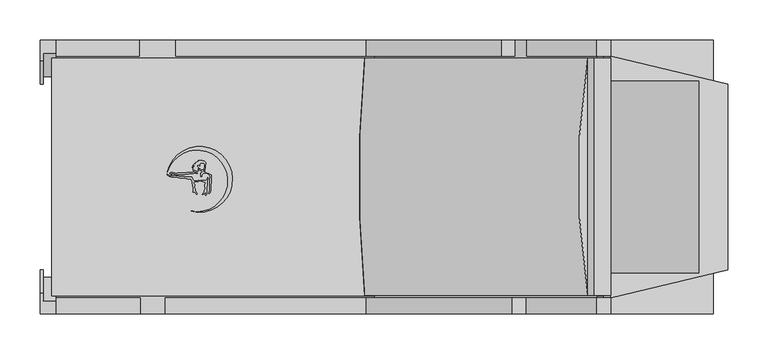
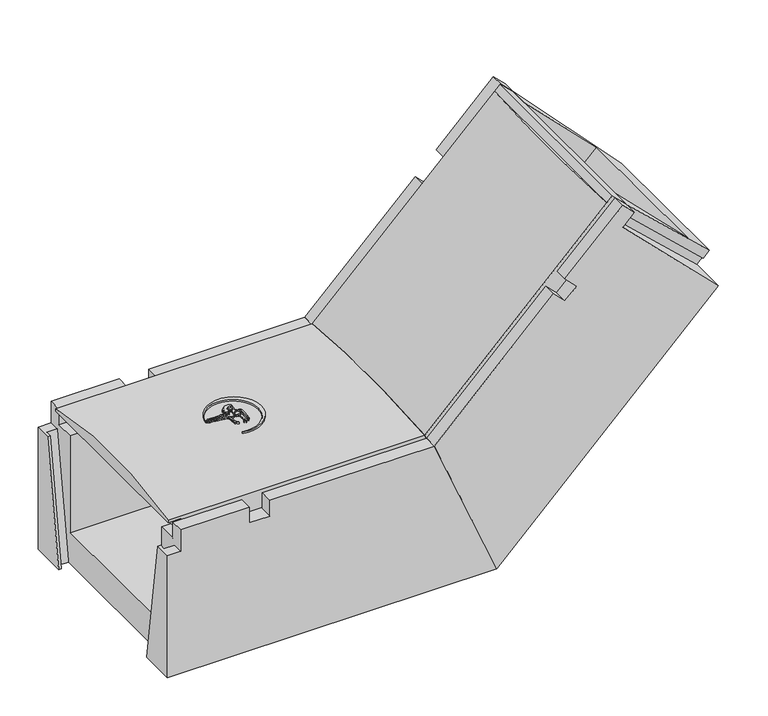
"""IFC4 building model written with IfcOpenShell, lengths in millimetres: cable carrier fitting geometry, Evotray type 2 vertical bend up : Evotray type 2 vertical bend up."""

import ifcopenshell
import ifcopenshell.guid

model = None  # the IFC model being written
_history = None  # IfcOwnerHistory: only IFC2X3 demands one
_inside = {}  # id of a spatial element -> (the spatial element, [elements in it])
_under = {}  # id of a project, library or spatial element -> (it, [spatial elements below it])
_declared = {}  # id of a project -> (the project, [libraries it declares])
_typed = {}  # id of a type object -> (the type object, [elements of that type])
_made_of = {}  # id of a material, layer set ... -> (it, [elements and type objects made of it])


def new_model(schema):
    """Start an empty IFC model of exactly this schema.

    Asked for "IFC4X3", IfcOpenShell would pick the latest addendum, in which some entities
    have other attributes; the version numbers below select the first issue.
    IFC2X3 requires an IfcOwnerHistory on every rooted entity: one is made here for all.
    """
    global model, _history
    if schema == "IFC4X3":
        model = ifcopenshell.file(schema_version=(4, 3, 0, 0))
    else:
        model = ifcopenshell.file(schema=schema)
    _inside.clear()
    _under.clear()
    _declared.clear()
    _typed.clear()
    _made_of.clear()
    _history = None
    if model.schema == "IFC2X3":
        org = make("IfcOrganization", Name="unknown")
        user = make(
            "IfcPersonAndOrganization",
            ThePerson=make("IfcPerson", FamilyName="unknown"),
            TheOrganization=org,
        )
        app = make(
            "IfcApplication",
            ApplicationDeveloper=org,
            Version="unknown",
            ApplicationFullName="unknown",
            ApplicationIdentifier="unknown",
        )
        _history = make(
            "IfcOwnerHistory",
            OwningUser=user,
            OwningApplication=app,
            ChangeAction="ADDED",
            CreationDate=0,
        )
    return model


def make(cls, **values):
    """One entity of the class cls with the attributes given. An attribute that is None is left unset."""
    return model.create_entity(
        cls, **{name: value for name, value in values.items() if value is not None}
    )


def rooted(cls, **values):
    """An entity with a GlobalId (a new one), such as an element, a storey or a relation."""
    return make(cls, GlobalId=ifcopenshell.guid.new(), OwnerHistory=_history, **values)


def si_unit(unit_type, name, prefix=None):
    """IfcSIUnit, for example si_unit("LENGTHUNIT", "METRE", prefix="MILLI")."""
    return make("IfcSIUnit", UnitType=unit_type, Prefix=prefix, Name=name)


def assignment(units):
    """IfcUnitAssignment: the units of a project."""
    return None if units is None else make("IfcUnitAssignment", Units=units)


def point(xyz):
    """IfcCartesianPoint."""
    return None if xyz is None else make("IfcCartesianPoint", Coordinates=xyz)


def direction(xyz):
    """IfcDirection."""
    return None if xyz is None else make("IfcDirection", DirectionRatios=xyz)


def frame(location, z_axis=None, x_axis=None):
    """IfcAxis2Placement3D, a coordinate frame: its origin and axes. An axis left out is left unset."""
    return make(
        "IfcAxis2Placement3D",
        Location=point(location),
        Axis=direction(z_axis),
        RefDirection=direction(x_axis),
    )


def frame_2d(location, x_axis=None):
    """IfcAxis2Placement2D, a coordinate frame in the plane: its origin and x axis."""
    return make(
        "IfcAxis2Placement2D", Location=point(location), RefDirection=direction(x_axis)
    )


def origin():
    """The frame at (0, 0, 0) with its axes left unset."""
    return frame((0.0, 0.0, 0.0))


def place(relative_to, where):
    """IfcLocalPlacement: puts the frame where relative to a parent placement (None: the world)."""
    return make(
        "IfcLocalPlacement", PlacementRelTo=relative_to, RelativePlacement=where
    )


def context(
    kind, dimensions, precision=None, world=None, true_north=None, identifier=None
):
    """IfcGeometricRepresentationContext, for example the 3D "Model" context."""
    return make(
        "IfcGeometricRepresentationContext",
        ContextIdentifier=identifier,
        ContextType=kind,
        CoordinateSpaceDimension=dimensions,
        Precision=precision,
        WorldCoordinateSystem=world,
        TrueNorth=true_north,
    )


def project(units=None, contexts=None):
    """IfcProject with its units and contexts."""
    return rooted(
        "IfcProject",
        Name="project",
        RepresentationContexts=contexts,
        UnitsInContext=assignment(units),
    )


def spatial(cls, under=None, at=None, **own):
    """A site, building, storey or space (cls), placed at a placement, below another one or the project."""
    s = rooted(cls, ObjectPlacement=at, **own)
    if under is not None:
        _under.setdefault(under.id(), (under, []))[1].append(s)
    return s


def polyline(points):
    """IfcPolyline through the points."""
    return make("IfcPolyline", Points=[point(p) for p in points])


def circle_curve(where, radius):
    """IfcCircle in the frame where."""
    return make("IfcCircle", Position=where, Radius=radius)


def ellipse_curve(where, semi_axis1, semi_axis2):
    """IfcEllipse in the frame where."""
    return make(
        "IfcEllipse", Position=where, SemiAxis1=semi_axis1, SemiAxis2=semi_axis2
    )


def trimmed(basis, trim1, trim2, sense, master):
    """IfcTrimmedCurve: the piece of a basis curve between two trims."""
    return make(
        "IfcTrimmedCurve",
        BasisCurve=basis,
        Trim1=trim1,
        Trim2=trim2,
        SenseAgreement=sense,
        MasterRepresentation=master,
    )


def segment(curve, same_sense, transition):
    """IfcCompositeCurveSegment."""
    return make(
        "IfcCompositeCurveSegment",
        Transition=transition,
        SameSense=same_sense,
        ParentCurve=curve,
    )


def composite_curve(segments, self_intersect=None):
    """IfcCompositeCurve: segments joined end to end."""
    return make("IfcCompositeCurve", Segments=segments, SelfIntersect=self_intersect)


def outline(outer, holes=None, kind="AREA"):
    """IfcArbitraryClosedProfileDef: a profile drawn as a closed curve; with holes, ...WithVoids."""
    if holes is None:
        return make("IfcArbitraryClosedProfileDef", ProfileType=kind, OuterCurve=outer)
    return make(
        "IfcArbitraryProfileDefWithVoids",
        ProfileType=kind,
        OuterCurve=outer,
        InnerCurves=holes,
    )


def extrude(swept, where, along, depth):
    """IfcExtrudedAreaSolid: the profile swept, set in the frame where, extruded along a direction by depth."""
    return make(
        "IfcExtrudedAreaSolid",
        SweptArea=swept,
        Position=where,
        ExtrudedDirection=direction(along),
        Depth=depth,
    )


def faces_of(points, faces, orient=None, outer=None):
    """IfcFace entities. A face is a list of loops; a loop is a list of indices into points, from 0.

    orient and outer hold one flag for each loop. By default every Orientation is true, the
    first loop of a face is its IfcFaceOuterBound and the others are IfcFaceBound.
    """
    made = []
    for i, loops in enumerate(faces):
        bounds = []
        for j, loop in enumerate(loops):
            is_outer = j == 0 if outer is None else outer[i][j]
            bounds.append(
                make(
                    "IfcFaceOuterBound" if is_outer else "IfcFaceBound",
                    Bound=make("IfcPolyLoop", Polygon=[points[k] for k in loop]),
                    Orientation=True if orient is None else orient[i][j],
                )
            )
        made.append(make("IfcFace", Bounds=bounds))
    return made


def faceted_brep(points, faces, orient=None, outer=None, voids=None):
    """IfcFacetedBrep: a solid bounded by flat faces; with voids (closed shells), ...WithVoids."""
    shared = [point(p) for p in points]
    hull = make("IfcClosedShell", CfsFaces=faces_of(shared, faces, orient, outer))
    if voids is None:
        return make("IfcFacetedBrep", Outer=hull)
    return make(
        "IfcFacetedBrepWithVoids",
        Outer=hull,
        Voids=[
            make(cls, CfsFaces=faces_of(shared, fs, o, b)) for cls, fs, o, b in voids
        ],
    )


def shape(context_of_items, identifier, shape_type, items):
    """IfcShapeRepresentation: the items that make up one representation, for example the "Body"."""
    return make(
        "IfcShapeRepresentation",
        ContextOfItems=context_of_items,
        RepresentationIdentifier=identifier,
        RepresentationType=shape_type,
        Items=items,
    )


def source(mapping_origin, context_of_items, identifier, shape_type, items):
    """IfcRepresentationMap: a shape defined once, which mapped items show again and again."""
    return make(
        "IfcRepresentationMap",
        MappingOrigin=mapping_origin,
        MappedRepresentation=shape(context_of_items, identifier, shape_type, items),
    )


def transform(
    local_origin,
    x_axis=None,
    y_axis=None,
    z_axis=None,
    scale=None,
    scale2=None,
    scale3=None,
    uniform=True,
):
    """IfcCartesianTransformationOperator3D, or its non-uniform kind. x_axis, y_axis, z_axis: its Axis1, 2, 3."""
    if uniform:
        return make(
            "IfcCartesianTransformationOperator3D",
            Axis1=direction(x_axis),
            Axis2=direction(y_axis),
            LocalOrigin=point(local_origin),
            Scale=scale,
            Axis3=direction(z_axis),
        )
    return make(
        "IfcCartesianTransformationOperator3DnonUniform",
        Axis1=direction(x_axis),
        Axis2=direction(y_axis),
        LocalOrigin=point(local_origin),
        Scale=scale,
        Axis3=direction(z_axis),
        Scale2=scale2,
        Scale3=scale3,
    )


def mapped(mapping_source, mapping_target):
    """IfcMappedItem: shows the shape of a source again, moved by a transform."""
    return make(
        "IfcMappedItem", MappingSource=mapping_source, MappingTarget=mapping_target
    )


def made_of(thing, what):
    """Note that an element or type object is made of a material, layer set ...; save() writes the relation."""
    if what is not None:
        _made_of.setdefault(what.id(), (what, []))[1].append(thing)
    return thing


def element(
    cls,
    number,
    at=None,
    inside=None,
    cuts=None,
    type_object=None,
    material=None,
    context=None,
    identifier="Body",
    shape_type=None,
    held_by="IfcProductDefinitionShape",
    body=None,
    shapes=None,
    **own,
):
    """One element of the class cls, such as IfcWall. Its Tag is "e" and its number.

    at: its placement. inside: the storey or other place that contains it. cuts: it is an
    opening in that element (IfcRelVoidsElement). A single representation is given by context,
    identifier, shape_type and body (its items); several are given by shapes. held_by: the class
    of the entity that holds the representations. save() writes the other relations.
    """
    e = rooted(cls, Tag="e%d" % number, ObjectPlacement=at, **own)
    if body is not None:
        shapes = [shape(context, identifier, shape_type, body)]
    if shapes is not None:
        e.Representation = make(held_by, Representations=shapes)
    if inside is not None:
        _inside.setdefault(inside.id(), (inside, []))[1].append(e)
    if cuts is not None:
        rooted(
            "IfcRelVoidsElement", RelatingBuildingElement=cuts, RelatedOpeningElement=e
        )
    if type_object is not None:
        _typed.setdefault(type_object.id(), (type_object, []))[1].append(e)
    return made_of(e, material)


def aggregate(whole, parts):
    """IfcRelAggregates: a whole, such as a stair, and the parts it consists of."""
    return rooted("IfcRelAggregates", RelatingObject=whole, RelatedObjects=parts)


def save(model, path):
    """Write the relations noted so far, then the file.

    IfcRelAggregates (storeys below a building ...), IfcRelContainedInSpatialStructure (elements
    in a storey), IfcRelDefinesByType, IfcRelAssociatesMaterial and IfcRelDeclares: one each for
    every whole, place, type object, material and project.
    """
    for whole, parts in _under.values():
        aggregate(whole, parts)
    for where, things in _inside.values():
        rooted(
            "IfcRelContainedInSpatialStructure",
            RelatedElements=things,
            RelatingStructure=where,
        )
    for kind, things in _typed.values():
        rooted("IfcRelDefinesByType", RelatedObjects=things, RelatingType=kind)
    for what, things in _made_of.values():
        rooted("IfcRelAssociatesMaterial", RelatedObjects=things, RelatingMaterial=what)
    for by, libraries in _declared.values():
        rooted("IfcRelDeclares", RelatingContext=by, RelatedDefinitions=libraries)
    model.write(path)


def plane_surface(at):
    """IfcPlane: the flat surface through the origin of the frame at, square to its z axis."""
    return make("IfcPlane", Position=at)


def cylinder_surface(at, radius):
    """IfcCylindricalSurface: all points at the distance radius from the z axis of the frame at."""
    return make("IfcCylindricalSurface", Position=at, Radius=radius)


def advanced_brep(points, edges, surfaces, faces):
    """IfcAdvancedBrep: a solid bounded by faces that lie on surfaces and meet in shared edges.

    An edge is (start, end): straight between two places in points (the first is 0);
    or (start, end, curve); or (start, end, curve, False) where it runs against its curve.
    A face is (place in surfaces, loops), or (place, loops, False) where it looks against
    its surface's normal. A loop lists edges by number (the first is 1), with a minus sign
    where the edge is run from its end to its start. The first loop is the outer one.
    """
    corners = [point(p) for p in points]
    vertices = [make("IfcVertexPoint", VertexGeometry=c) for c in corners]
    made = []
    for start, end, *more in edges:
        made.append(
            make(
                "IfcEdgeCurve",
                EdgeStart=vertices[start],
                EdgeEnd=vertices[end],
                EdgeGeometry=more[0] if more else make("IfcPolyline", Points=[corners[start], corners[end]]),
                SameSense=more[1] if len(more) > 1 else True,
            )
        )
    hull = []
    for where, loops, *sense in faces:
        bounds = []
        for j, loop in enumerate(loops):
            ring = [make("IfcOrientedEdge", EdgeElement=made[abs(k) - 1], Orientation=k > 0) for k in loop]
            bounds.append(
                make(
                    "IfcFaceOuterBound" if j == 0 else "IfcFaceBound",
                    Bound=make("IfcEdgeLoop", EdgeList=ring),
                    Orientation=True,
                )
            )
        hull.append(make("IfcAdvancedFace", Bounds=bounds, FaceSurface=surfaces[where], SameSense=sense[0] if sense else True))
    return make("IfcAdvancedBrep", Outer=make("IfcClosedShell", CfsFaces=hull))


def cable_carrier_fitting_b5f44305(model_context):
    return source(origin(), model_context, "Body", "SolidModel", [
        extrude(outline(composite_curve([segment(polyline([(-180.1987673, 5.907559), (-178.7730763, 5.0844359), (-179.4820077, 4.6751342), (-182.0469375, 4.6751342), (-184.5064308, 2.2156409), (-184.5064308, 0.6319729), (-185.5639447, 0.3486129), (-185.8953119, 1.5852919), (-185.5730905, 2.7878385), (-185.5730905, 5.0146536), (-184.1065498, 6.4811943), (-184.5064308, 7.1738084), (-185.5730905, 7.7896447), (-186.4313624, 8.2851682), (-187.4244859, 9.2782918), (-187.4244859, 10.5283487), (-186.6366917, 10.0735155), (-185.5730905, 9.0099142), (-184.5064308, 8.394078), (-182.1936661, 8.394078), (-181.5617675, 9.0259766), (-181.5617675, 10.6343813), (-181.1559104, 11.3373462), (-180.9163405, 12.2314336), (-180.9163405, 16.3268685), (-181.5617675, 16.9722955), (-185.5730905, 17.3232408), (-186.3212546, 16.8912881), (-186.7531031, 16.1433045), (-186.9754965, 15.313321), (-187.2482129, 13.7666695), (-187.8042347, 14.3226912), (-188.3698905, 14.8883471), (-189.3304254, 14.8883471), (-189.8048648, 14.0665939), (-189.8048648, 13.2416885), (-189.4028177, 12.5453225), (-188.675123, 11.8176278), (-189.0717623, 10.3373496), (-189.4092623, 9.0777826), (-189.1064549, 7.3604762), (-189.907248, 7.2192748), (-191.6376932, 7.6829462), (-192.8844025, 8.2642963), (-193.6376597, 8.6155459), (-195.2371082, 8.33352), (-194.7695498, 9.1433549), (-193.1127288, 9.7463885)]), True, "CONTINUOUS"), segment(trimmed(circle_curve(frame_2d((-193.6788564, 9.4744491)), 0.6280537), [point((-193.1127288, 9.7463885))], [point((-193.8344386, 10.0829273))], True, "CARTESIAN"), True, "CONTINUOUS"), segment(polyline([(-193.8344386, 10.0829273), (-195.7814537, 10.0829273), (-195.2232755, 10.6411054), (-194.3724958, 10.9507639), (-193.5540563, 11.2486515)]), True, "CONTINUOUS"), segment(trimmed(circle_curve(frame_2d((-194.2923812, 11.2486515)), 0.7383249), [point((-193.5540563, 11.2486515))], [point((-194.2923812, 11.9869764))], True, "CARTESIAN"), True, "CONTINUOUS"), segment(polyline([(-194.2923812, 11.9869764), (-196.0001288, 11.9869764), (-196.3916504, 12.6651117), (-194.5730583, 12.9857785), (-193.2767203, 13.457607), (-193.897473, 14.0783597), (-195.8606925, 14.0783597), (-195.30811, 14.6309421), (-194.2782773, 15.2255163), (-193.603553, 15.9002407), (-192.8807357, 16.3175594), (-191.9057237, 16.8804829)]), True, "CONTINUOUS"), segment(trimmed(circle_curve(frame_2d((-192.1167091, 17.2459203)), 0.4219708), [point((-191.9057237, 16.8804829))], [point((-192.3276945, 17.6113577))], True, "CARTESIAN"), True, "CONTINUOUS"), segment(polyline([(-192.3276945, 17.6113577), (-191.7102978, 18.2287544), (-190.4076278, 18.7028875), (-189.4125713, 19.2773836), (-188.2810347, 19.4769041), (-188.6348604, 20.4490324), (-183.6348604, 20.4490324), (-182.6206866, 19.9761154), (-181.4988316, 19.6755153), (-180.4843855, 19.0898245), (-179.3757091, 17.9811481), (-179.3757091, 15.4151328), (-179.8646262, 14.5683035), (-179.8646262, 11.8362675), (-180.3536612, 10.7875287), (-180.760463, 10.0829273), (-180.760463, 8.2341629), (-181.5617675, 7.7715296), (-182.3950459, 7.6246001)]), True, "CONTINUOUS"), segment(trimmed(circle_curve(frame_2d((-181.3420944, 7.3424626)), 1.0900956), [point((-182.3950459, 7.6246001))], [point((-181.6242319, 6.2895111))], True, "CARTESIAN"), True, "CONTINUOUS"), segment(polyline([(-181.6242319, 6.2895111), (-180.1987673, 5.907559)]), True, "CONTINUOUS")], self_intersect=False)), frame((0.0, 0.0, 229.0645802), z_axis=(0.0, 0.0, 1.0), x_axis=(1.0, 0.0, 0.0)), (0.0, 0.0, 1.0), 22.5),
        extrude(outline(polyline([(-175.6420581, 3.0525563), (-177.5647021, 4.1625953), (-176.375462, 4.4812513), (-175.0006066, 3.9808448), (-172.8744575, 2.753312), (-172.462808, 1.2170154), (-172.462808, -1.5561738), (-172.8811889, -3.9289297), (-173.2073261, -13.2682758), (-173.2073261, -16.1231727), (-173.766974, -19.297094), (-174.9259981, -20.4561181), (-175.8234867, -20.4561181), (-175.1486125, -18.6019165), (-174.8396569, -16.8497423), (-174.3251997, -13.9321102), (-174.3251997, -2.6926455), (-173.883565, -0.1880111), (-174.4260419, 1.8365401), (-175.6420581, 3.0525563)])), frame((0.0, 0.0, 229.0645802), z_axis=(0.0, 0.0, 1.0), x_axis=(1.0, 0.0, 0.0)), (0.0, 0.0, 1.0), 22.5),
        extrude(outline(composite_curve([segment(polyline([(-183.070307, -4.5554644), (-181.0881056, -4.5554644), (-179.6198413, -4.2965698), (-178.3145593, -2.9912878), (-177.1344504, -0.4605362), (-176.6534984, -1.7819409), (-177.2762062, -3.117342), (-177.9468137, -4.5554644), (-177.9468137, -10.5136603), (-178.3751928, -12.943119), (-178.3751928, -21.4242609), (-179.8238515, -22.8729196), (-180.3965887, -22.3001824), (-179.7178687, -20.5578122), (-179.4597233, -19.0937972)]), True, "CONTINUOUS"), segment(trimmed(circle_curve(frame_2d((-179.8743713, -19.0937972)), 0.414648), [point((-179.4597233, -19.0937972))], [point((-180.2890194, -19.0937972))], True, "CARTESIAN"), True, "CONTINUOUS"), segment(polyline([(-180.2890194, -19.0937972), (-181.0547081, -19.8594859), (-182.3215546, -21.3692548), (-182.9770637, -22.0247639), (-183.7693849, -21.6552984), (-181.605165, -18.4467105), (-181.2992553, -16.7118106), (-180.4571975, -14.9060116), (-180.19999, -13.4473154), (-180.9884987, -12.0815782), (-180.9884987, -9.315031), (-179.6653502, -7.4454743)]), True, "CONTINUOUS"), segment(trimmed(circle_curve(frame_2d((-180.0024552, -7.2068937)), 0.4129897), [point((-179.6653502, -7.4454743))], [point((-180.2410358, -6.8697887))], True, "CARTESIAN"), True, "CONTINUOUS"), segment(polyline([(-180.2410358, -6.8697887), (-182.2448508, -6.516462), (-183.6887473, -5.843162), (-185.508748, -4.9944818), (-185.508748, -4.1255015), (-183.070307, -4.5554644)]), True, "CONTINUOUS")], self_intersect=False)), frame((0.0, 0.0, 229.0645802), z_axis=(0.0, 0.0, 1.0), x_axis=(1.0, 0.0, 0.0)), (0.0, 0.0, 1.0), 22.5),
        extrude(outline(composite_curve([segment(polyline([(-225.4819029, 2.2537302), (-223.7462291, 1.4443722), (-219.5597552, 1.4443722), (-218.4890341, 1.731271), (-217.1624965, 1.731271), (-215.4413877, 1.4443722), (-213.4350656, 0.9067798), (-212.2818775, 0.597784), (-206.5899708, 0.597784), (-203.9734749, 0.1616293), (-202.6459123, -0.19409), (-197.03167, -0.19409)]), True, "CONTINUOUS"), segment(trimmed(circle_curve(frame_2d((-188.1781038, 2.7115165)), 9.3181642), [point((-197.03167, -0.19409))], [point((-193.6774022, -4.8108435))], True, "CARTESIAN"), True, "CONTINUOUS"), segment(polyline([(-193.6774022, -4.8108435), (-190.6256174, -4.8108435), (-188.5910388, -4.632841), (-187.4520349, -4.1017147), (-187.7095548, -5.0627921), (-188.6536491, -5.6078652), (-189.612336, -5.9567987), (-192.847041, -5.8438403), (-194.0357356, -6.2764898), (-194.44473, -7.153581), (-194.3696494, -8.0117562), (-193.8907652, -8.8412079), (-193.1701597, -9.5618134), (-193.1701597, -11.3180259), (-193.53546, -12.3216801), (-193.3911934, -13.970655), (-192.8861011, -15.8556852), (-192.737982, -17.5486944), (-190.3666469, -20.2766033), (-190.5753239, -21.4600691), (-193.1701597, -18.8652332), (-194.1329913, -19.1232231), (-195.5361675, -18.8758053), (-195.2606072, -18.1187094), (-195.2606072, -15.8446539), (-195.0850033, -14.8487551), (-195.2606072, -12.8415943), (-195.6362696, -11.8094702), (-195.6362696, -9.9842873), (-196.0826053, -9.0271173), (-196.0826053, -6.6493678), (-196.3310455, -5.7221762), (-196.7830159, -4.9393406), (-197.2317276, -4.1621491), (-197.84617, -3.5477067), (-198.2800213, -2.6173096), (-201.8809595, -2.4915621), (-204.2251115, -2.1008055), (-206.2577048, -1.5561738), (-209.5993244, -1.2049554), (-211.6789374, -1.2049554), (-213.021172, -0.8453047), (-214.5447671, -0.4370587), (-215.8880204, 0.1893106), (-216.8824091, 0.1893106), (-219.5338495, 0.1893106), (-220.6460936, -0.1087143), (-222.5093755, 0.0871245), (-223.9984504, 0.3353447), (-225.6717579, 1.1156208), (-226.6476843, 2.0915471), (-227.2867674, 2.7306302), (-227.2867674, 3.5175099), (-225.4819029, 2.2537302)]), True, "CONTINUOUS")], self_intersect=False)), frame((0.0, 0.0, 229.0645802), z_axis=(0.0, 0.0, 1.0), x_axis=(1.0, 0.0, 0.0)), (0.0, 0.0, 1.0), 22.5),
        extrude(outline(composite_curve([segment(polyline([(-222.9796703, 3.7977023), (-221.956356, 3.2068915), (-223.6840165, 3.7265624), (-224.014163, 4.6441261), (-223.1758386, 5.4824506), (-220.30302, 5.4824506), (-219.318583, 5.0847122), (-218.2280942, 4.6441261), (-217.4299007, 4.1832889), (-216.1696706, 4.1832889), (-215.3486455, 4.4787), (-214.4633932, 4.9898007), (-208.0496883, 4.9898007), (-207.1941137, 4.6441261), (-206.1237116, 4.6441261), (-205.1629915, 4.9898007), (-203.9838348, 4.9898007), (-203.2654957, 5.4045339), (-197.8528405, 5.4045339), (-197.0925598, 5.6780888), (-195.8504018, 5.6780888), (-195.2746333, 6.2538574), (-193.3170698, 6.2538574), (-192.0290688, 5.7334711), (-191.0171524, 5.1492409), (-190.2127113, 4.8242256)]), True, "CONTINUOUS"), segment(trimmed(circle_curve(frame_2d((-190.6200436, 4.6596527)), 0.4393221), [point((-190.2127113, 4.8242256))], [point((-190.7846166, 4.2523203))], False, "CARTESIAN"), True, "CONTINUOUS"), segment(polyline([(-190.7846166, 4.2523203), (-191.8003453, 4.6627013), (-193.112003, 4.6627013), (-194.382433, 4.8867124), (-195.1944574, 4.5945398), (-196.3374314, 4.1832889), (-199.6816293, 4.1832889), (-200.4727027, 3.7265624), (-204.0400229, 3.7265624), (-204.9228853, 3.2168416), (-214.9228853, 3.2168416), (-217.5335493, 2.9884381), (-221.222077, 4.4787), (-223.3728446, 4.4787), (-222.9796703, 3.7977023)]), True, "CONTINUOUS")], self_intersect=False)), frame((0.0, 0.0, 229.0645802), z_axis=(0.0, 0.0, 1.0), x_axis=(1.0, 0.0, 0.0)), (0.0, 0.0, 1.0), 22.5),
        extrude(outline(composite_curve([segment(trimmed(circle_curve(frame_2d((-190.3994103, -4.8721323)), 38.3616107), [point((-197.8072471, -42.511701))], [point((-227.1109456, 6.2578432))], True, "CARTESIAN"), True, "CONTINUOUS"), segment(trimmed(circle_curve(frame_2d((-187.2700096, -2.9917986)), 40.900563), [point((-227.1109456, 6.2578432))], [point((-197.8072471, -42.511701))], False, "CARTESIAN"), True, "CONTINUOUS")], self_intersect=False)), frame((0.0, 0.0, 229.0645802), z_axis=(0.0, 0.0, 1.0), x_axis=(1.0, 0.0, 0.0)), (0.0, 0.0, 1.0), 22.5),
        advanced_brep(
        [(30.0862197, -147.5, 205.0), (323.5965005, -147.5, 498.5102807), (303.1074144, -147.5, 518.9993667), (294.6221331, -147.5, 510.5140854), (18.0740264, -147.5, 234.0), (323.5965005, 147.5, 498.5102807), (30.0862197, 147.5, 205.0), (18.0740264, 147.5, 234.0), (294.6051224, 147.5, 510.531096), (303.1074144, 147.5, 518.9993667)],
        [
            (0, 1),
            (1, 2),
            (2, 3),
            (3, 4),
            (4, 0),
            (5, 6),
            (6, 7),
            (7, 8),
            (8, 9),
            (9, 5),
            (1, 5),
            (9, 2),
            (6, 0),
            (4, 7, ellipse_curve(frame((281.1649356, 0.0, -401.157641), z_axis=(-0.9238795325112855, 0.0, -0.38268343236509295), x_axis=(-0.3826834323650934, 0.0, 0.9238795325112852)), 705.7840235, 652.0594136)),
            (8, 3),
            (8, 3, circle_curve(frame((743.7293975, 0.0, 61.4068209), z_axis=(0.7071067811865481, 0.0, 0.707106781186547), x_axis=(0.0, -1.0, 0.0)), 652.0594136)),
        ],
        [
            plane_surface(frame((323.5965005, -147.5, 498.5102807), z_axis=(0.0, -1.0, 0.0), x_axis=(-0.7071067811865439, 0.0, 0.7071067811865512))),
            plane_surface(frame((323.5965005, 147.5, 498.5102807), z_axis=(0.0, 1.0, 0.0), x_axis=(0.7071067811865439, 0.0, -0.7071067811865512))),
            plane_surface(frame((323.5965005, -147.5, 498.5102807), z_axis=(0.7071067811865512, 0.0, 0.7071067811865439), x_axis=(0.0, 1.0, 0.0))),
            plane_surface(frame((11.0323958, -147.5, 251.0), z_axis=(-0.9238795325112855, 0.0, -0.38268343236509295), x_axis=(0.0, 1.0, 0.0))),
            plane_surface(frame((30.0862197, -147.5, 205.0), z_axis=(0.7071067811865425, 0.0, -0.7071067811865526), x_axis=(0.0, 1.0, 0.0))),
            plane_surface(frame((303.1074144, -147.5, 518.9993667), z_axis=(-0.7071067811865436, 0.0, 0.7071067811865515), x_axis=(-0.7071067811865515, 0.0, -0.7071067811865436))),
            plane_surface(frame((294.6221331, -147.5, 510.5140854), z_axis=(0.7071067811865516, 0.0, 0.7071067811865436), x_axis=(-0.7071067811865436, 0.0, 0.7071067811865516))),
            cylinder_surface(frame((465.4409422, 0.0, -216.8816344), z_axis=(0.7071067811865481, 0.0, 0.707106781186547), x_axis=(0.0, -1.0, 0.0)), 652.0594136),
        ],
        [
            (0, [[1, 2, 3, 4, 5]]),
            (1, [[6, 7, 8, 9, 10]]),
            (2, [[11, -10, 12, -2]]),
            (3, [[13, -5, 14, -7]]),
            (4, [[-1, -13, -6, -11]]),
            (5, [[15, -3, -12, -9]]),
            (6, [[-15, 16]]),
            (7, [[-4, -16, -8, -14]]),
        ],
    ),
        advanced_brep(
        [(-351.0, -147.5, 205.0), (30.0862197, -147.5, 205.0), (18.0740264, -147.5, 234.0), (-371.0, -147.5, 234.0), (-371.0, -147.5, 230.0), (-351.0, -147.5, 230.0), (30.0862197, 147.5, 205.0), (-351.0, 147.5, 205.0), (-351.0, 147.5, 230.0), (-371.0, 147.5, 230.0), (-371.0, 147.5, 234.0), (18.0740264, 147.5, 234.0)],
        [
            (0, 1),
            (1, 2),
            (2, 3),
            (3, 4),
            (4, 5),
            (5, 0),
            (6, 7),
            (7, 8),
            (8, 9),
            (9, 10),
            (10, 11),
            (11, 6),
            (9, 4),
            (3, 10, circle_curve(frame((-371.0, 0.0, -401.157641), z_axis=(-1.0, 0.0, 0.0), x_axis=(0.0, -1.0, 0.0)), 652.0594136)),
            (6, 1),
            (0, 7),
            (11, 2, ellipse_curve(frame((281.1649356, 0.0, -401.157641), z_axis=(0.9238795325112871, 0.0, 0.38268343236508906), x_axis=(0.38268343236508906, 0.0, -0.923879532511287)), 705.7840235, 652.0594136)),
            (8, 5),
        ],
        [
            plane_surface(frame((-371.0, -147.5, 205.0), z_axis=(0.0, -1.0, 0.0), x_axis=(0.0, 0.0, -1.0))),
            plane_surface(frame((-371.0, 147.5, 205.0), z_axis=(0.0, 1.0, 0.0), x_axis=(0.0, 0.0, 1.0))),
            plane_surface(frame((-371.0, -147.5, 251.0), z_axis=(-1.0, 0.0, 0.0), x_axis=(0.0, 1.0, 0.0))),
            plane_surface(frame((-371.0, -147.5, 205.0), z_axis=(0.0, 0.0, -1.0), x_axis=(0.0, 1.0, 0.0))),
            plane_surface(frame((30.0862197, -147.5, 205.0), z_axis=(0.9238795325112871, 0.0, 0.38268343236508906), x_axis=(0.0, 1.0, 0.0))),
            plane_surface(frame((-371.0, 147.5, 230.0), z_axis=(0.0, 0.0, -1.0), x_axis=(-1.0, 0.0, 0.0))),
            plane_surface(frame((-351.0, -147.5, 230.0), z_axis=(-1.0, 0.0, 0.0), x_axis=(0.0, 0.0, -1.0))),
            cylinder_surface(frame((-371.0, 0.0, -401.157641), z_axis=(1.0, 0.0, 0.0), x_axis=(0.0, -1.0, 0.0)), 652.0594136),
        ],
        [
            (0, [[1, 2, 3, 4, 5, 6]]),
            (1, [[7, 8, 9, 10, 11, 12]]),
            (2, [[13, -4, 14, -10]]),
            (3, [[15, -1, 16, -7]]),
            (4, [[-15, -12, 17, -2]]),
            (5, [[18, -5, -13, -9]]),
            (6, [[-18, -8, -16, -6]]),
            (7, [[-3, -17, -11, -14]]),
        ],
    ),
        faceted_brep([(19.7308807, -170.0, 230.0), (115.0, -170.0, 0.0), (450.8757211, -170.0, 335.8757211), (305.9188309, -170.0, 480.8326112), (323.5965005, -170.0, 498.5102807), (305.9188309, -170.0, 516.1879503), (218.2375901, -170.0, 428.5067094), (235.9152596, -170.0, 410.8290399), (218.2375901, -170.0, 393.1513703), (200.5599205, -170.0, 410.8290399), (115.0, 170.0, 0.0), (19.7308807, 170.0, 230.0), (187.1248917, 170.0, 397.394011), (204.8025612, 170.0, 379.7163415), (236.6223664, 170.0, 411.5361467), (218.9446968, 170.0, 429.2138162), (305.9188309, 170.0, 516.1879503), (323.5965005, 170.0, 498.5102807), (305.9188309, 170.0, 480.8326112), (450.8757211, 170.0, 335.8757211), (323.5965005, -120.0, 498.5102807), (323.5965005, -150.0, 498.5102807), (468.5533906, -115.4, 353.5533906), (468.5533906, 115.4, 353.5533906), (323.5965005, 150.0, 498.5102807), (323.5965005, 120.0, 498.5102807), (433.1980515, 120.0, 388.9087297), (433.1980515, -120.0, 388.9087297), (305.9188309, -150.0, 516.1879503), (305.9188309, 150.0, 516.1879503), (218.2375901, -150.0, 428.5067094), (218.9446968, 150.0, 429.2138162), (19.7308807, -150.0, 230.0), (200.5599205, -150.0, 410.8290399), (19.7308807, 150.0, 230.0), (187.1248917, 150.0, 397.394011), (30.0862197, -150.0, 205.0), (30.0862197, -120.0, 205.0), (94.2893219, -120.0, 50.0), (94.2893219, 120.0, 50.0), (30.0862197, 120.0, 205.0), (30.0862197, 150.0, 205.0), (450.8757211, 113.0, 335.8757211), (459.3610024, 113.0, 344.3610024), (459.3610024, 115.4, 344.3610024), (459.3610024, -115.4, 344.3610024), (459.3610024, -113.0, 344.3610024), (450.8757211, -113.0, 335.8757211), (314.4041123, -150.0, 489.3178926), (305.9188309, -150.0, 480.8326112), (235.9152596, -150.0, 410.8290399), (218.2375901, -150.0, 393.1513703), (236.6223664, 150.0, 411.5361467), (305.9188309, 150.0, 480.8326112), (314.4041123, 150.0, 489.3178926), (204.8025612, 150.0, 379.7163415), (305.9188309, -147.6, 480.8326112), (314.4041123, -147.6, 489.3178926), (314.4041123, 147.6, 489.3178926), (305.9188309, 147.6, 480.8326112)], [[[0, 1, 2, 3, 4, 5, 6, 7, 8, 9]], [[10, 11, 12, 13, 14, 15, 16, 17, 18, 19]], [[20, 21, 22, 23, 24, 25, 26, 27]], [[28, 5, 4, 21]], [[16, 29, 24, 17]], [[5, 28, 30, 6]], [[29, 16, 15, 31]], [[32, 0, 9, 33]], [[11, 34, 35, 12]], [[1, 0, 32, 36, 37, 38, 39, 40, 41, 34, 11, 10]], [[1, 10, 19, 42, 43, 44, 23, 22, 45, 46, 47, 2]], [[28, 21, 48, 49, 50, 30]], [[36, 32, 33, 51]], [[24, 29, 31, 52, 53, 54]], [[34, 41, 55, 35]], [[37, 36, 51, 8, 7, 50, 49, 56, 57, 48, 21, 20]], [[41, 40, 25, 24, 54, 58, 59, 53, 52, 14, 13, 55]], [[27, 38, 37, 20]], [[39, 26, 25, 40]], [[38, 27, 26, 39]], [[48, 21, 4, 3, 49]], [[21, 48, 45, 22]], [[24, 54, 53, 18, 17]], [[54, 24, 23, 44]], [[46, 57, 56, 47]], [[47, 56, 49, 3, 2]], [[57, 46, 45, 48]], [[42, 59, 58, 43]], [[59, 42, 19, 18, 53]], [[43, 58, 54, 44]], [[55, 13, 12, 35]], [[14, 52, 31, 15]], [[50, 7, 6, 30]], [[8, 51, 33, 9]]]),
        faceted_brep([(-385.0, -170.0, 0.0), (115.0, -170.0, 0.0), (19.7308807, -170.0, 230.0), (-229.6518259, -170.0, 230.0), (-229.6518259, -170.0, 205.0), (-261.0, -170.0, 205.0), (-261.0, -170.0, 230.0), (-365.0130369, -170.0, 230.0), (-365.0130369, -170.0, 196.0), (-385.0, -170.0, 196.0), (19.7308807, 170.0, 230.0), (115.0, 170.0, 0.0), (-385.0, 170.0, 0.0), (-385.0, 170.0, 196.0), (-365.0130369, 170.0, 196.0), (-365.0130369, 170.0, 230.0), (-262.0, 170.0, 230.0), (-262.0, 170.0, 205.0), (-217.0, 170.0, 205.0), (-217.0, 170.0, 230.0), (19.7308807, -150.0, 230.0), (-229.6518259, -150.0, 230.0), (19.7308807, 150.0, 230.0), (-217.0, 150.0, 230.0), (-365.0130369, -150.0, 230.0), (-261.0, -150.0, 230.0), (-365.0130369, 150.0, 230.0), (-262.0, 150.0, 230.0), (-385.0, -115.45, 0.0), (-385.0, -144.8926087, 196.0), (-385.0, 115.45, 0.0), (-385.0, 144.8926087, 196.0), (-381.0, -115.45, 0.0), (-381.0, -124.6, 0.0), (-365.0, -124.6, 0.0), (-365.0, 124.6, 0.0), (-381.0, 124.6, 0.0), (-381.0, 115.45, 0.0), (30.0862197, 150.0, 205.0), (30.0862197, 120.0, 205.0), (94.2893219, 120.0, 50.0), (94.2893219, -120.0, 50.0), (30.0862197, -120.0, 205.0), (30.0862197, -150.0, 205.0), (-381.0, 144.8926087, 196.0), (-381.0, -144.8926087, 196.0), (-365.0, 154.0426087, 196.0), (-381.0, 154.0426087, 196.0), (-381.0, -154.0426087, 196.0), (-365.0, -154.0426087, 196.0), (-365.0, -150.0, 205.0), (-365.0, -147.5, 205.0), (-365.0, -120.0, 205.0), (-365.0, -120.0, 50.0), (-365.0, 120.0, 50.0), (-365.0, 120.0, 205.0), (-365.0, 147.5, 205.0), (-365.0, 150.0, 205.0), (-229.6518259, -150.0, 205.0), (-261.0, -150.0, 205.0), (-217.0, 150.0, 205.0), (-262.0, 150.0, 205.0), (-351.0, 120.0, 205.0), (-351.0, -120.0, 205.0)], [[[0, 1, 2, 3, 4, 5, 6, 7, 8, 9]], [[10, 11, 12, 13, 14, 15, 16, 17, 18, 19]], [[2, 20, 21, 3]], [[22, 10, 19, 23]], [[24, 7, 6, 25]], [[15, 26, 27, 16]], [[28, 0, 9, 29]], [[12, 30, 31, 13]], [[1, 0, 28, 32, 33, 34, 35, 36, 37, 30, 12, 11]], [[2, 1, 11, 10, 22, 38, 39, 40, 41, 42, 43, 20]], [[30, 37, 44, 31]], [[32, 28, 29, 45]], [[36, 35, 46, 47]], [[33, 32, 45, 48]], [[37, 36, 47, 44]], [[34, 33, 48, 49]], [[35, 34, 49, 8, 7, 24, 50, 51, 52, 53, 54, 55, 56, 57, 26, 15, 14, 46]], [[8, 49, 48, 45, 29, 9]], [[46, 14, 13, 31, 44, 47]], [[20, 43, 58, 21]], [[50, 24, 25, 59]], [[38, 22, 23, 60]], [[26, 57, 61, 27]], [[39, 38, 60, 18, 17, 61, 57, 56, 55, 62]], [[43, 42, 63, 52, 51, 50, 59, 5, 4, 58]], [[41, 53, 52, 63, 42]], [[54, 40, 39, 62, 55]], [[53, 41, 40, 54]], [[61, 17, 16, 27]], [[18, 60, 23, 19]], [[5, 59, 25, 6]], [[58, 4, 3, 21]]]),
    ])


if __name__ == "__main__":
    model = new_model("IFC4")
    model_context = context("Model", 3, world=origin())
    ifc_project = project(units=[si_unit("LENGTHUNIT", "METRE", prefix="MILLI")], contexts=[model_context])
    site = spatial("IfcSite", under=ifc_project)
    building = spatial("IfcBuilding", under=site)
    placement = place(None, origin())
    cable_carrier_fitting_shape = cable_carrier_fitting_b5f44305(model_context)
    element("IfcCableCarrierFitting", 1, ObjectType="Evotray type 2 vertical bend up : Evotray type 2 vertical bend up", at=placement, inside=building, context=model_context, shape_type="MappedRepresentation", body=[
        mapped(cable_carrier_fitting_shape, transform((0.0, 0.0, 0.0), x_axis=(1.0, 0.0, 0.0), y_axis=(0.0, 1.0, 0.0), z_axis=(0.0, 0.0, 1.0))),
    ])
    save(model, "model.ifc")
